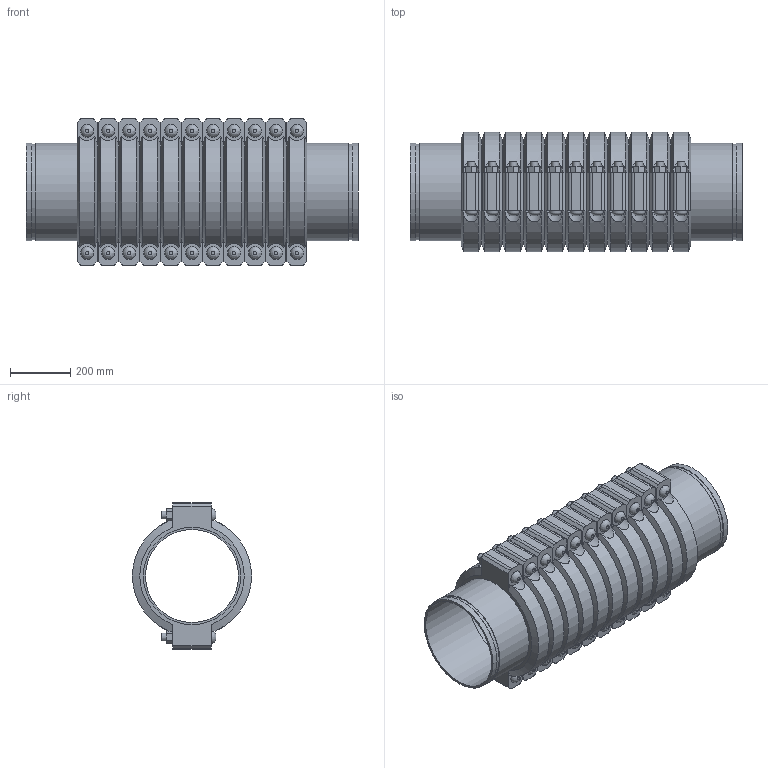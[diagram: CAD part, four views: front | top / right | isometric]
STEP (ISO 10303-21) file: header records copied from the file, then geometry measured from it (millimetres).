
FILE_DESCRIPTION(/* description */ ('VIC SS EXPANSION JOINT 11 COUPLINGS COMPRESSED STYLE 155P (OGS) (POTABLE WATER) ','CAx-IF Rec.Pracs.---Representation and Presentation of Product Manufacturing Information (PMI)---4.0---2014-10-13'),/* implementation_level */ '2;1');
FILE_NAME(/* name */ 'C:\Users\kkamble\AppData\Roaming\Autodesk\ApplicationPlugins\Victaulic.Temp\A148\Victaulic_SS_Expansion Joint_Compressed_11 Couplings_Style 155P (OGS)-Potable Water_11 Coup_Comp_12 (300).stp',/* time_stamp */ '2021-07-16T17:07:15+06:00',/* author */ ('kkamble'),/* organization */ ('Victaulic'),/* preprocessor_version */ 'ST-DEVELOPER v17.2',/* originating_system */ 'Autodesk Inventor 2019',/* authorisation */ '');
FILE_SCHEMA (('AP242_MANAGED_MODEL_BASED_3D_ENGINEERING_MIM_LF { 1 0 10303 442 1 1 4 }'));
Length unit declared in the file: inch
Products named in the file (4): 155P-12.0; Nipple-12.0; Nipple-12.0_1; 077-12.0
Assembly tree (23 placements, depth 2):
  155P-12.0
    Nipple-12.0  x2
    Nipple-12.0_1  x10
    077-12.0  x11
Bounding box: 1104.9 x 397 x 488.95 mm (x, y, z)
Volume: 44315179.8 mm3; surface area: 5920907.6 mm2
Topology: 23 solids, 45 shells, 771 faces, 1889 edges, 1322 vertices
Faces by surface type: plane 446, cylinder 259, cone 44, bspline 22
Full cylindrical faces by diameter (mm): 25.4 x44, 27.432 x22, 309.677 x12, 318.287 x24, 323.85 x47
Entity records: 3041 total; most frequent: CARTESIAN_POINT 657, DIRECTION 483, ORIENTED_EDGE 398, EDGE_CURVE 199, AXIS2_PLACEMENT_3D 198, VERTEX_POINT 142, EDGE_LOOP 105, CIRCLE 92
